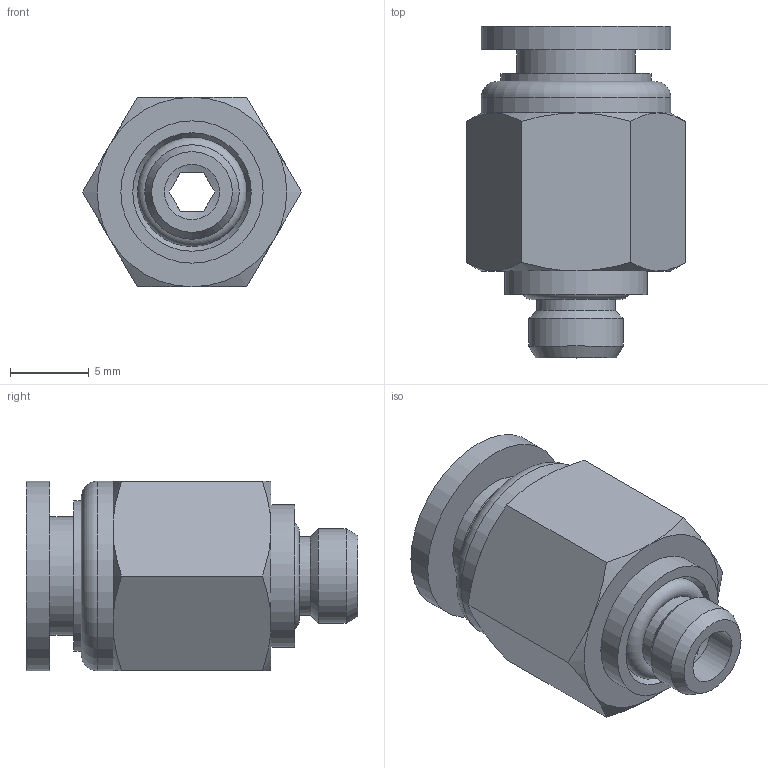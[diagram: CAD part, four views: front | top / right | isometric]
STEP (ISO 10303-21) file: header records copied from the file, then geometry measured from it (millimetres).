
FILE_DESCRIPTION(/* description */ (''),/* implementation_level */ '2;1');
FILE_NAME(/* name */ 'S:\_Tecnico\ArchivioUT\_Disegni3D ingombri\DISEGNI 3D per ingombri\RP\RP 51\RP51M606.stp',/* time_stamp */ '2020-02-05T15:03:45+01:00',/* author */ ('UfficioTecnico'),/* organization */ (''),/* preprocessor_version */ 'ST-DEVELOPER v18',/* originating_system */ 'Autodesk Inventor 2020',/* authorisation */ '');
FILE_SCHEMA (('AUTOMOTIVE_DESIGN { 1 0 10303 214 3 1 1 }'));
Length unit declared in the file: millimetre
Products named in the file (1): RP51M606
Bounding box: 13.86 x 21 x 12 mm (x, y, z)
Volume: 1462.9 mm3; surface area: 1465.1 mm2
Topology: 1 solids, 1 shells, 51 faces, 130 edges, 86 vertices
Faces by surface type: plane 21, cone 17, cylinder 10, torus 3
Full cylindrical faces by diameter (mm): 3.5 x1, 5 x2, 5.974 x1, 6 x1, 7.5 x1, 9 x1, 9.5 x1, 12 x2
Entity records: 1594 total; most frequent: CARTESIAN_POINT 328, DIRECTION 271, ORIENTED_EDGE 260, EDGE_CURVE 130, AXIS2_PLACEMENT_3D 119, VERTEX_POINT 86, CIRCLE 67, EDGE_LOOP 60
